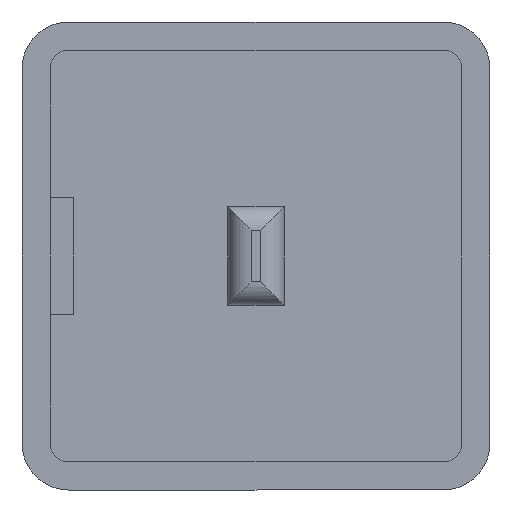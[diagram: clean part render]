
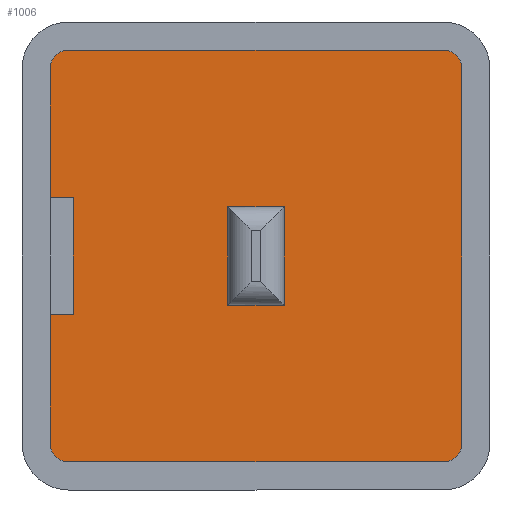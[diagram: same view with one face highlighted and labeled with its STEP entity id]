
A CAD part, front view. The second image highlights one B-rep face of the part: STEP entity #1006.
In plain terms, the highlighted planar face has unit normal (0, -1, 0).
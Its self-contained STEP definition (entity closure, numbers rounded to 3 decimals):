
#2 = CARTESIAN_POINT ( 'NONE',  ( -7.8, -0.5, -2.5 ) ) ;
#16 = CIRCLE ( 'NONE', #978, 0.8 ) ;
#31 = EDGE_CURVE ( 'NONE', #270, #330, #751, .T. ) ;
#33 = CARTESIAN_POINT ( 'NONE',  ( -8.8, -0.5, 2.5 ) ) ;
#34 = CARTESIAN_POINT ( 'NONE',  ( 1.2, -0.5, -2.1 ) ) ;
#58 = CARTESIAN_POINT ( 'NONE',  ( -1.2, -0.5, 2.1 ) ) ;
#66 = EDGE_CURVE ( 'NONE', #268, #1043, #684, .T. ) ;
#73 = CARTESIAN_POINT ( 'NONE',  ( -1.2, -0.5, -2.1 ) ) ;
#76 = LINE ( 'NONE', #1188, #294 ) ;
#103 = ORIENTED_EDGE ( 'NONE', *, *, #579, .T. ) ;
#105 = VERTEX_POINT ( 'NONE', #1051 ) ;
#109 = CARTESIAN_POINT ( 'NONE',  ( 8., -0.5, -8. ) ) ;
#125 = VECTOR ( 'NONE', #1024, 1000. ) ;
#132 = ORIENTED_EDGE ( 'NONE', *, *, #1158, .T. ) ;
#150 = DIRECTION ( 'NONE',  ( 0., 0., -1. ) ) ;
#151 = ORIENTED_EDGE ( 'NONE', *, *, #747, .T. ) ;
#178 = LINE ( 'NONE', #1113, #661 ) ;
#179 = VECTOR ( 'NONE', #373, 1000. ) ;
#181 = EDGE_LOOP ( 'NONE', ( #833, #213, #394, #239 ) ) ;
#193 = ORIENTED_EDGE ( 'NONE', *, *, #644, .T. ) ;
#201 = VERTEX_POINT ( 'NONE', #34 ) ;
#203 = DIRECTION ( 'NONE',  ( 0., 0., -1. ) ) ;
#213 = ORIENTED_EDGE ( 'NONE', *, *, #256, .F. ) ;
#224 = EDGE_CURVE ( 'NONE', #585, #1097, #482, .T. ) ;
#230 = DIRECTION ( 'NONE',  ( 0., -1., 0. ) ) ;
#239 = ORIENTED_EDGE ( 'NONE', *, *, #1120, .F. ) ;
#249 = CARTESIAN_POINT ( 'NONE',  ( -1.2, -0.5, -2.1 ) ) ;
#256 = EDGE_CURVE ( 'NONE', #1043, #874, #896, .T. ) ;
#267 = VECTOR ( 'NONE', #475, 1000. ) ;
#268 = VERTEX_POINT ( 'NONE', #801 ) ;
#270 = VERTEX_POINT ( 'NONE', #993 ) ;
#274 = CARTESIAN_POINT ( 'NONE',  ( -8., -0.5, 8. ) ) ;
#294 = VECTOR ( 'NONE', #519, 1000. ) ;
#317 = CARTESIAN_POINT ( 'NONE',  ( -7.8, -0.5, 2.5 ) ) ;
#328 = CARTESIAN_POINT ( 'NONE',  ( -8.8, -0.5, -2.5 ) ) ;
#330 = VERTEX_POINT ( 'NONE', #339 ) ;
#336 = CARTESIAN_POINT ( 'NONE',  ( -8.8, -0.5, -2.5 ) ) ;
#339 = CARTESIAN_POINT ( 'NONE',  ( 8., -0.5, -8.8 ) ) ;
#342 = CARTESIAN_POINT ( 'NONE',  ( -8., -0.5, -8. ) ) ;
#351 = VERTEX_POINT ( 'NONE', #1210 ) ;
#354 = ORIENTED_EDGE ( 'NONE', *, *, #423, .F. ) ;
#371 = DIRECTION ( 'NONE',  ( 0., 0., -1. ) ) ;
#373 = DIRECTION ( 'NONE',  ( -1., 0., 0. ) ) ;
#374 = CIRCLE ( 'NONE', #1230, 0.8 ) ;
#379 = CARTESIAN_POINT ( 'NONE',  ( -1.2, -0.5, 2.1 ) ) ;
#384 = EDGE_CURVE ( 'NONE', #874, #201, #388, .T. ) ;
#387 = VECTOR ( 'NONE', #1184, 1000. ) ;
#388 = LINE ( 'NONE', #249, #125 ) ;
#394 = ORIENTED_EDGE ( 'NONE', *, *, #66, .F. ) ;
#414 = VECTOR ( 'NONE', #610, 1000. ) ;
#423 = EDGE_CURVE ( 'NONE', #1097, #351, #647, .T. ) ;
#429 = AXIS2_PLACEMENT_3D ( 'NONE', #342, #1012, #443 ) ;
#435 = VECTOR ( 'NONE', #447, 1000. ) ;
#438 = CARTESIAN_POINT ( 'NONE',  ( -8., -0.5, 8. ) ) ;
#443 = DIRECTION ( 'NONE',  ( 0., 0., -1. ) ) ;
#447 = DIRECTION ( 'NONE',  ( 0., 0., -1. ) ) ;
#457 = EDGE_CURVE ( 'NONE', #351, #951, #76, .T. ) ;
#472 = VERTEX_POINT ( 'NONE', #995 ) ;
#475 = DIRECTION ( 'NONE',  ( 1., 0., 0. ) ) ;
#482 = LINE ( 'NONE', #328, #414 ) ;
#483 = ORIENTED_EDGE ( 'NONE', *, *, #224, .F. ) ;
#497 = VERTEX_POINT ( 'NONE', #524 ) ;
#519 = DIRECTION ( 'NONE',  ( -1., 0., 0. ) ) ;
#524 = CARTESIAN_POINT ( 'NONE',  ( -8., -0.5, 8.8 ) ) ;
#540 = VECTOR ( 'NONE', #969, 1000. ) ;
#561 = EDGE_CURVE ( 'NONE', #585, #105, #683, .T. ) ;
#563 = ORIENTED_EDGE ( 'NONE', *, *, #1035, .T. ) ;
#567 = EDGE_LOOP ( 'NONE', ( #354, #483, #755, #151, #818, #132, #563, #1032, #578, #193, #103, #1237 ) ) ;
#578 = ORIENTED_EDGE ( 'NONE', *, *, #770, .T. ) ;
#579 = EDGE_CURVE ( 'NONE', #875, #951, #178, .T. ) ;
#585 = VERTEX_POINT ( 'NONE', #336 ) ;
#591 = LINE ( 'NONE', #878, #540 ) ;
#592 = AXIS2_PLACEMENT_3D ( 'NONE', #438, #722, #150 ) ;
#606 = VECTOR ( 'NONE', #895, 1000. ) ;
#610 = DIRECTION ( 'NONE',  ( 1., 0., 0. ) ) ;
#629 = CARTESIAN_POINT ( 'NONE',  ( -8.8, -0.5, 8. ) ) ;
#644 = EDGE_CURVE ( 'NONE', #497, #875, #374, .T. ) ;
#647 = LINE ( 'NONE', #317, #606 ) ;
#654 = VERTEX_POINT ( 'NONE', #1047 ) ;
#661 = VECTOR ( 'NONE', #923, 1000. ) ;
#683 = LINE ( 'NONE', #629, #435 ) ;
#684 = LINE ( 'NONE', #379, #179 ) ;
#722 = DIRECTION ( 'NONE',  ( 0., -1., 0. ) ) ;
#733 = VECTOR ( 'NONE', #1207, 1000. ) ;
#747 = EDGE_CURVE ( 'NONE', #105, #270, #763, .T. ) ;
#751 = LINE ( 'NONE', #1048, #267 ) ;
#755 = ORIENTED_EDGE ( 'NONE', *, *, #561, .T. ) ;
#763 = CIRCLE ( 'NONE', #429, 0.8 ) ;
#770 = EDGE_CURVE ( 'NONE', #472, #497, #1243, .T. ) ;
#782 = DIRECTION ( 'NONE',  ( 0., -1., 0. ) ) ;
#801 = CARTESIAN_POINT ( 'NONE',  ( 1.2, -0.5, 2.1 ) ) ;
#812 = CARTESIAN_POINT ( 'NONE',  ( 8., -0.5, 8. ) ) ;
#818 = ORIENTED_EDGE ( 'NONE', *, *, #31, .T. ) ;
#833 = ORIENTED_EDGE ( 'NONE', *, *, #384, .F. ) ;
#850 = VERTEX_POINT ( 'NONE', #935 ) ;
#874 = VERTEX_POINT ( 'NONE', #73 ) ;
#875 = VERTEX_POINT ( 'NONE', #1033 ) ;
#878 = CARTESIAN_POINT ( 'NONE',  ( 1.2, -0.5, 2.1 ) ) ;
#880 = VECTOR ( 'NONE', #1209, 1000. ) ;
#895 = DIRECTION ( 'NONE',  ( 0., 0., 1. ) ) ;
#896 = LINE ( 'NONE', #898, #387 ) ;
#898 = CARTESIAN_POINT ( 'NONE',  ( -1.2, -0.5, 2.1 ) ) ;
#912 = DIRECTION ( 'NONE',  ( 0., 0., -1. ) ) ;
#923 = DIRECTION ( 'NONE',  ( 0., 0., -1. ) ) ;
#935 = CARTESIAN_POINT ( 'NONE',  ( 8.8, -0.5, -8. ) ) ;
#945 = FACE_OUTER_BOUND ( 'NONE', #567, .T. ) ;
#950 = DIRECTION ( 'NONE',  ( 0., -1., 0. ) ) ;
#951 = VERTEX_POINT ( 'NONE', #33 ) ;
#966 = EDGE_CURVE ( 'NONE', #654, #472, #1231, .T. ) ;
#969 = DIRECTION ( 'NONE',  ( 0., 0., 1. ) ) ;
#978 = AXIS2_PLACEMENT_3D ( 'NONE', #109, #782, #203 ) ;
#993 = CARTESIAN_POINT ( 'NONE',  ( -8., -0.5, -8.8 ) ) ;
#995 = CARTESIAN_POINT ( 'NONE',  ( 8., -0.5, 8.8 ) ) ;
#1006 = ADVANCED_FACE ( 'NONE', ( #945, #1162 ), #1010, .T. ) ;
#1010 = PLANE ( 'NONE',  #592 ) ;
#1012 = DIRECTION ( 'NONE',  ( 0., -1., 0. ) ) ;
#1016 = CARTESIAN_POINT ( 'NONE',  ( 8.8, -0.5, 8. ) ) ;
#1024 = DIRECTION ( 'NONE',  ( 1., 0., 0. ) ) ;
#1032 = ORIENTED_EDGE ( 'NONE', *, *, #966, .T. ) ;
#1033 = CARTESIAN_POINT ( 'NONE',  ( -8.8, -0.5, 8. ) ) ;
#1035 = EDGE_CURVE ( 'NONE', #850, #654, #1139, .T. ) ;
#1043 = VERTEX_POINT ( 'NONE', #58 ) ;
#1047 = CARTESIAN_POINT ( 'NONE',  ( 8.8, -0.5, 8. ) ) ;
#1048 = CARTESIAN_POINT ( 'NONE',  ( -8., -0.5, -8.8 ) ) ;
#1051 = CARTESIAN_POINT ( 'NONE',  ( -8.8, -0.5, -8. ) ) ;
#1097 = VERTEX_POINT ( 'NONE', #2 ) ;
#1109 = CARTESIAN_POINT ( 'NONE',  ( -8., -0.5, 8.8 ) ) ;
#1113 = CARTESIAN_POINT ( 'NONE',  ( -8.8, -0.5, 8. ) ) ;
#1120 = EDGE_CURVE ( 'NONE', #201, #268, #591, .T. ) ;
#1139 = LINE ( 'NONE', #1016, #880 ) ;
#1158 = EDGE_CURVE ( 'NONE', #330, #850, #16, .T. ) ;
#1162 = FACE_BOUND ( 'NONE', #181, .T. ) ;
#1184 = DIRECTION ( 'NONE',  ( 0., 0., -1. ) ) ;
#1188 = CARTESIAN_POINT ( 'NONE',  ( -8.8, -0.5, 2.5 ) ) ;
#1202 = AXIS2_PLACEMENT_3D ( 'NONE', #812, #230, #912 ) ;
#1207 = DIRECTION ( 'NONE',  ( -1., 0., 0. ) ) ;
#1209 = DIRECTION ( 'NONE',  ( 0., 0., 1. ) ) ;
#1210 = CARTESIAN_POINT ( 'NONE',  ( -7.8, -0.5, 2.5 ) ) ;
#1230 = AXIS2_PLACEMENT_3D ( 'NONE', #274, #950, #371 ) ;
#1231 = CIRCLE ( 'NONE', #1202, 0.8 ) ;
#1237 = ORIENTED_EDGE ( 'NONE', *, *, #457, .F. ) ;
#1243 = LINE ( 'NONE', #1109, #733 ) ;
